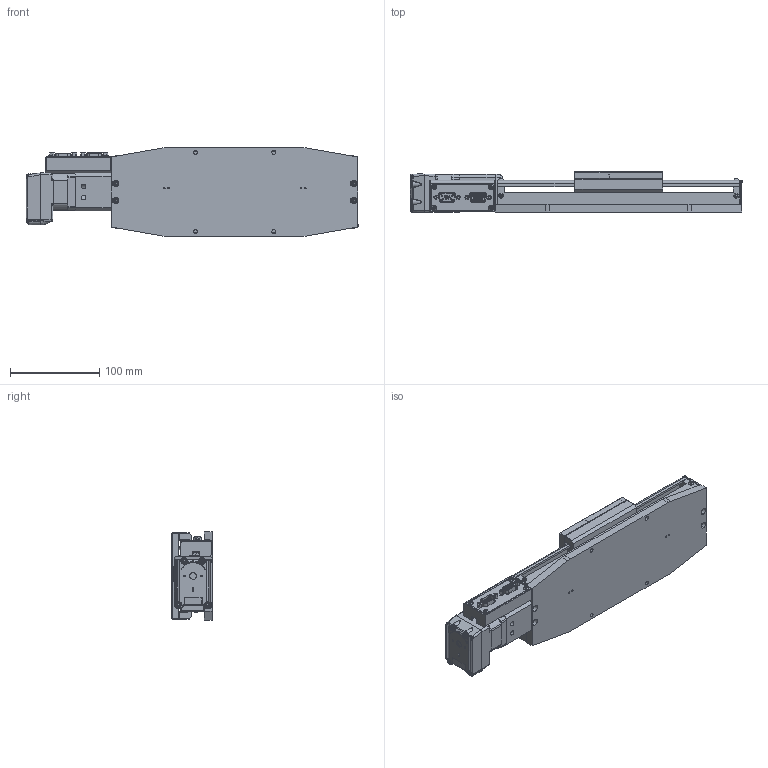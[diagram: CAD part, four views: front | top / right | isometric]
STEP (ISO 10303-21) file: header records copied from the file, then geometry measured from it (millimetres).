
FILE_DESCRIPTION (( 'STEP AP214' ), '1' );
FILE_NAME ('L3500.150-STA_v2_20180821.STEP', '2018-08-22T11:24:03', ( '' ), ( '' ), 'SwSTEP 2.0', 'SolidWorks 2017', '' );
FILE_SCHEMA (( 'AUTOMOTIVE_DESIGN' ));
Length unit declared in the file: millimetre
Products named in the file (1): L3500.150-STA_v2_20180821
Bounding box: 371.93 x 45.42 x 99.06 mm (x, y, z)
Surface area: 279824.9 mm2 (no closed solid volume)
Topology: 0 solids, 37 shells, 2883 faces, 7672 edges, 4972 vertices
Faces by surface type: plane 1316, cylinder 1024, bspline 292, cone 185, torus 66
Entity records: 123476 total; most frequent: CARTESIAN_POINT 53544, ORIENTED_EDGE 15063, DIRECTION 13350, EDGE_CURVE 7543, VERTEX_POINT 4972, AXIS2_PLACEMENT_3D 4609, VECTOR 4132, LINE 4132
